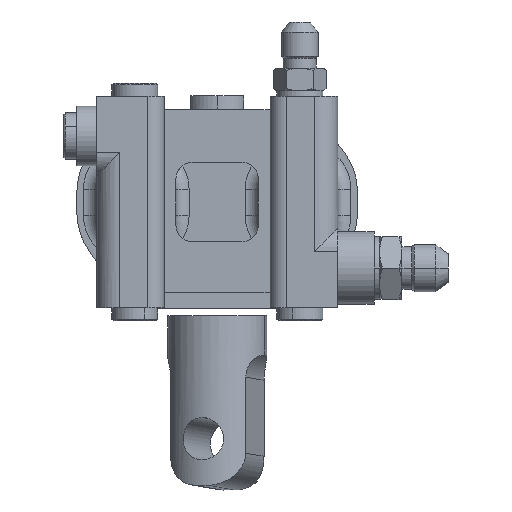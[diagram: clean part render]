
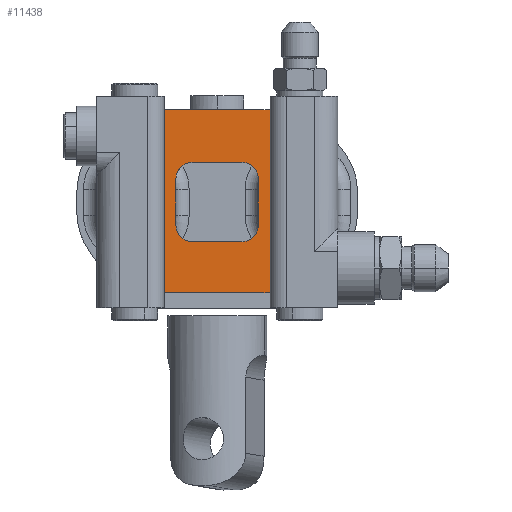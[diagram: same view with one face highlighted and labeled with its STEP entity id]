
A CAD part, top view. The second image highlights one B-rep face of the part: STEP entity #11438.
In plain terms, the highlighted planar face has unit normal (0, 0, 1).
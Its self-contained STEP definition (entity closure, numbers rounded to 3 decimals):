
#224 = VERTEX_POINT ( 'NONE', #4632 ) ;
#768 = DIRECTION ( 'NONE',  ( 0., 0., 1. ) ) ;
#790 = AXIS2_PLACEMENT_3D ( 'NONE', #17403, #7464, #20459 ) ;
#1025 = VECTOR ( 'NONE', #14542, 1000. ) ;
#1110 = ORIENTED_EDGE ( 'NONE', *, *, #9054, .F. ) ;
#1176 = EDGE_CURVE ( 'NONE', #20620, #15487, #20653, .T. ) ;
#1262 = VECTOR ( 'NONE', #4960, 1000. ) ;
#1496 = DIRECTION ( 'NONE',  ( 1., 0., 0. ) ) ;
#1736 = AXIS2_PLACEMENT_3D ( 'NONE', #2306, #13567, #15040 ) ;
#2160 = EDGE_CURVE ( 'NONE', #14422, #12033, #11216, .T. ) ;
#2204 = CIRCLE ( 'NONE', #9825, 5. ) ;
#2277 = VECTOR ( 'NONE', #17279, 1000. ) ;
#2306 = CARTESIAN_POINT ( 'NONE',  ( -7.5, 7., 74. ) ) ;
#2417 = CIRCLE ( 'NONE', #18465, 5. ) ;
#2474 = FACE_OUTER_BOUND ( 'NONE', #9560, .T. ) ;
#2551 = LINE ( 'NONE', #3732, #6123 ) ;
#2552 = CARTESIAN_POINT ( 'NONE',  ( 12.5, 7., 74. ) ) ;
#3732 = CARTESIAN_POINT ( 'NONE',  ( 12.5, -32., 74. ) ) ;
#3793 = DIRECTION ( 'NONE',  ( 0., 1., 0. ) ) ;
#4211 = CARTESIAN_POINT ( 'NONE',  ( -7.5, 12., 74. ) ) ;
#4358 = LINE ( 'NONE', #4211, #20384 ) ;
#4632 = CARTESIAN_POINT ( 'NONE',  ( -16., 28., 74. ) ) ;
#4715 = EDGE_CURVE ( 'NONE', #15487, #7352, #2204, .T. ) ;
#4960 = DIRECTION ( 'NONE',  ( 0., -1., 0. ) ) ;
#5177 = CARTESIAN_POINT ( 'NONE',  ( 7.5, 7., 74. ) ) ;
#5353 = LINE ( 'NONE', #9114, #2277 ) ;
#5429 = LINE ( 'NONE', #7813, #20182 ) ;
#5639 = ORIENTED_EDGE ( 'NONE', *, *, #6351, .F. ) ;
#5760 = ORIENTED_EDGE ( 'NONE', *, *, #15561, .T. ) ;
#6051 = FACE_BOUND ( 'NONE', #8810, .T. ) ;
#6123 = VECTOR ( 'NONE', #3793, 1000. ) ;
#6243 = CIRCLE ( 'NONE', #1736, 5. ) ;
#6351 = EDGE_CURVE ( 'NONE', #11475, #9252, #2417, .T. ) ;
#6404 = EDGE_CURVE ( 'NONE', #14569, #10794, #6243, .T. ) ;
#6667 = VECTOR ( 'NONE', #16727, 1000. ) ;
#6866 = CARTESIAN_POINT ( 'NONE',  ( 16., -27.5, 74. ) ) ;
#7105 = LINE ( 'NONE', #16261, #1262 ) ;
#7352 = VERTEX_POINT ( 'NONE', #9303 ) ;
#7377 = EDGE_CURVE ( 'NONE', #12033, #224, #5429, .T. ) ;
#7457 = CARTESIAN_POINT ( 'NONE',  ( 16., 28., 74. ) ) ;
#7464 = DIRECTION ( 'NONE',  ( 0., 0., -1. ) ) ;
#7813 = CARTESIAN_POINT ( 'NONE',  ( -16., 28., 74. ) ) ;
#8440 = DIRECTION ( 'NONE',  ( 0., 0., 1. ) ) ;
#8516 = ORIENTED_EDGE ( 'NONE', *, *, #10508, .F. ) ;
#8797 = DIRECTION ( 'NONE',  ( -1., 0., 0. ) ) ;
#8810 = EDGE_LOOP ( 'NONE', ( #16096, #8516, #14851, #16532, #5639, #1110, #14454, #16737 ) ) ;
#9054 = EDGE_CURVE ( 'NONE', #7352, #11475, #2551, .T. ) ;
#9076 = ORIENTED_EDGE ( 'NONE', *, *, #9318, .T. ) ;
#9114 = CARTESIAN_POINT ( 'NONE',  ( -16., 32., 74. ) ) ;
#9252 = VERTEX_POINT ( 'NONE', #20342 ) ;
#9303 = CARTESIAN_POINT ( 'NONE',  ( 12.5, -7., 74. ) ) ;
#9318 = EDGE_CURVE ( 'NONE', #224, #12996, #5353, .T. ) ;
#9560 = EDGE_LOOP ( 'NONE', ( #5760, #13142, #9783, #9076 ) ) ;
#9783 = ORIENTED_EDGE ( 'NONE', *, *, #7377, .T. ) ;
#9825 = AXIS2_PLACEMENT_3D ( 'NONE', #18984, #15807, #10878 ) ;
#10089 = DIRECTION ( 'NONE',  ( -1., 0., 0. ) ) ;
#10508 = EDGE_CURVE ( 'NONE', #10794, #12419, #7105, .T. ) ;
#10729 = PLANE ( 'NONE',  #790 ) ;
#10794 = VERTEX_POINT ( 'NONE', #18567 ) ;
#10878 = DIRECTION ( 'NONE',  ( -1., 0., 0. ) ) ;
#11071 = DIRECTION ( 'NONE',  ( -1., 0., 0. ) ) ;
#11140 = CARTESIAN_POINT ( 'NONE',  ( -7.5, -12., 74. ) ) ;
#11216 = LINE ( 'NONE', #20836, #1025 ) ;
#11438 = ADVANCED_FACE ( 'NONE', ( #2474, #6051 ), #10729, .F. ) ;
#11475 = VERTEX_POINT ( 'NONE', #2552 ) ;
#11518 = CARTESIAN_POINT ( 'NONE',  ( -7.5, -12., 74. ) ) ;
#12033 = VERTEX_POINT ( 'NONE', #7457 ) ;
#12264 = VECTOR ( 'NONE', #1496, 1000. ) ;
#12419 = VERTEX_POINT ( 'NONE', #18303 ) ;
#12996 = VERTEX_POINT ( 'NONE', #18483 ) ;
#13142 = ORIENTED_EDGE ( 'NONE', *, *, #2160, .T. ) ;
#13567 = DIRECTION ( 'NONE',  ( 0., 0., 1. ) ) ;
#14422 = VERTEX_POINT ( 'NONE', #6866 ) ;
#14454 = ORIENTED_EDGE ( 'NONE', *, *, #4715, .F. ) ;
#14542 = DIRECTION ( 'NONE',  ( 0., 1., 0. ) ) ;
#14569 = VERTEX_POINT ( 'NONE', #18433 ) ;
#14851 = ORIENTED_EDGE ( 'NONE', *, *, #6404, .F. ) ;
#15040 = DIRECTION ( 'NONE',  ( -1., 0., 0. ) ) ;
#15093 = CARTESIAN_POINT ( 'NONE',  ( 7.5, -12., 74. ) ) ;
#15487 = VERTEX_POINT ( 'NONE', #15093 ) ;
#15545 = LINE ( 'NONE', #20024, #6667 ) ;
#15561 = EDGE_CURVE ( 'NONE', #12996, #14422, #15545, .T. ) ;
#15807 = DIRECTION ( 'NONE',  ( 0., 0., 1. ) ) ;
#15896 = AXIS2_PLACEMENT_3D ( 'NONE', #16816, #768, #8797 ) ;
#16096 = ORIENTED_EDGE ( 'NONE', *, *, #20346, .F. ) ;
#16143 = EDGE_CURVE ( 'NONE', #9252, #14569, #4358, .T. ) ;
#16261 = CARTESIAN_POINT ( 'NONE',  ( -12.5, -32., 74. ) ) ;
#16532 = ORIENTED_EDGE ( 'NONE', *, *, #16143, .F. ) ;
#16727 = DIRECTION ( 'NONE',  ( 1., 0., 0. ) ) ;
#16737 = ORIENTED_EDGE ( 'NONE', *, *, #1176, .F. ) ;
#16816 = CARTESIAN_POINT ( 'NONE',  ( -7.5, -7., 74. ) ) ;
#17206 = DIRECTION ( 'NONE',  ( -1., 0., 0. ) ) ;
#17279 = DIRECTION ( 'NONE',  ( 0., -1., 0. ) ) ;
#17403 = CARTESIAN_POINT ( 'NONE',  ( 16., 32., 74. ) ) ;
#18303 = CARTESIAN_POINT ( 'NONE',  ( -12.5, -7., 74. ) ) ;
#18433 = CARTESIAN_POINT ( 'NONE',  ( -7.5, 12., 74. ) ) ;
#18465 = AXIS2_PLACEMENT_3D ( 'NONE', #5177, #8440, #10089 ) ;
#18483 = CARTESIAN_POINT ( 'NONE',  ( -16., -27.5, 74. ) ) ;
#18567 = CARTESIAN_POINT ( 'NONE',  ( -12.5, 7., 74. ) ) ;
#18984 = CARTESIAN_POINT ( 'NONE',  ( 7.5, -7., 74. ) ) ;
#20024 = CARTESIAN_POINT ( 'NONE',  ( 16., -27.5, 74. ) ) ;
#20182 = VECTOR ( 'NONE', #11071, 1000. ) ;
#20193 = CIRCLE ( 'NONE', #15896, 5. ) ;
#20342 = CARTESIAN_POINT ( 'NONE',  ( 7.5, 12., 74. ) ) ;
#20346 = EDGE_CURVE ( 'NONE', #12419, #20620, #20193, .T. ) ;
#20384 = VECTOR ( 'NONE', #17206, 1000. ) ;
#20459 = DIRECTION ( 'NONE',  ( -1., 0., 0. ) ) ;
#20620 = VERTEX_POINT ( 'NONE', #11140 ) ;
#20653 = LINE ( 'NONE', #11518, #12264 ) ;
#20836 = CARTESIAN_POINT ( 'NONE',  ( 16., 32., 74. ) ) ;
